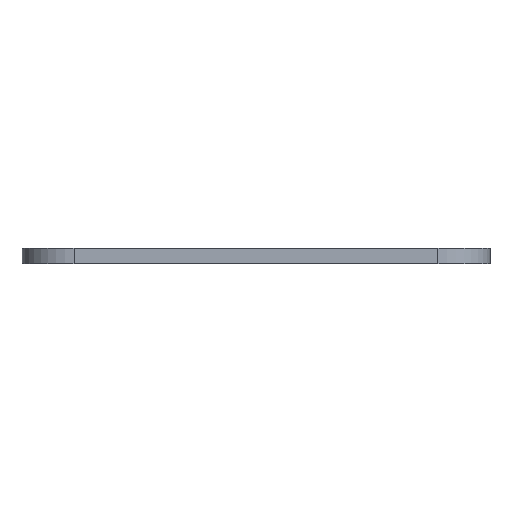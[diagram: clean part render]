
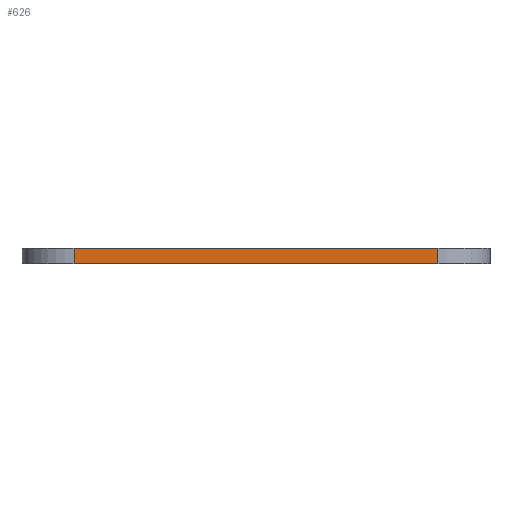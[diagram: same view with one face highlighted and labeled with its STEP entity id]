
A CAD part, front view. The second image highlights one B-rep face of the part: STEP entity #626.
In plain terms, the highlighted planar face has unit normal (0, -1, 0).
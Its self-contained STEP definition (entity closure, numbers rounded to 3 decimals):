
#63 = VECTOR ( 'NONE', #790, 1000. ) ;
#69 = EDGE_LOOP ( 'NONE', ( #375, #353, #319, #462 ) ) ;
#131 = DIRECTION ( 'NONE',  ( 0., 1., 0. ) ) ;
#142 = CARTESIAN_POINT ( 'NONE',  ( -35., 0., 3. ) ) ;
#165 = CARTESIAN_POINT ( 'NONE',  ( -35., 0., 3. ) ) ;
#187 = VECTOR ( 'NONE', #836, 1000. ) ;
#200 = PLANE ( 'NONE',  #696 ) ;
#223 = CARTESIAN_POINT ( 'NONE',  ( 35., 0., 3. ) ) ;
#253 = DIRECTION ( 'NONE',  ( 1., 0., 0. ) ) ;
#258 = CARTESIAN_POINT ( 'NONE',  ( 35., 0., 0. ) ) ;
#262 = CARTESIAN_POINT ( 'NONE',  ( -45., 0., 3. ) ) ;
#294 = EDGE_CURVE ( 'NONE', #541, #644, #804, .T. ) ;
#319 = ORIENTED_EDGE ( 'NONE', *, *, #429, .T. ) ;
#339 = VERTEX_POINT ( 'NONE', #165 ) ;
#353 = ORIENTED_EDGE ( 'NONE', *, *, #731, .T. ) ;
#359 = LINE ( 'NONE', #142, #63 ) ;
#360 = VECTOR ( 'NONE', #253, 1000. ) ;
#375 = ORIENTED_EDGE ( 'NONE', *, *, #592, .F. ) ;
#408 = VECTOR ( 'NONE', #693, 1000. ) ;
#429 = EDGE_CURVE ( 'NONE', #774, #541, #606, .T. ) ;
#462 = ORIENTED_EDGE ( 'NONE', *, *, #294, .T. ) ;
#499 = FACE_OUTER_BOUND ( 'NONE', #69, .T. ) ;
#509 = CARTESIAN_POINT ( 'NONE',  ( -45., 0., 0. ) ) ;
#515 = CARTESIAN_POINT ( 'NONE',  ( 35., 0., 3. ) ) ;
#527 = CARTESIAN_POINT ( 'NONE',  ( -45., 0., 3. ) ) ;
#541 = VERTEX_POINT ( 'NONE', #258 ) ;
#592 = EDGE_CURVE ( 'NONE', #339, #644, #630, .T. ) ;
#606 = LINE ( 'NONE', #509, #187 ) ;
#626 = ADVANCED_FACE ( 'NONE', ( #499 ), #200, .F. ) ;
#630 = LINE ( 'NONE', #527, #360 ) ;
#644 = VERTEX_POINT ( 'NONE', #515 ) ;
#675 = CARTESIAN_POINT ( 'NONE',  ( -35., 0., 0. ) ) ;
#693 = DIRECTION ( 'NONE',  ( 0., 0., 1. ) ) ;
#696 = AXIS2_PLACEMENT_3D ( 'NONE', #262, #131, #728 ) ;
#728 = DIRECTION ( 'NONE',  ( -1., 0., 0. ) ) ;
#731 = EDGE_CURVE ( 'NONE', #339, #774, #359, .T. ) ;
#774 = VERTEX_POINT ( 'NONE', #675 ) ;
#790 = DIRECTION ( 'NONE',  ( 0., 0., -1. ) ) ;
#804 = LINE ( 'NONE', #223, #408 ) ;
#836 = DIRECTION ( 'NONE',  ( 1., 0., 0. ) ) ;
